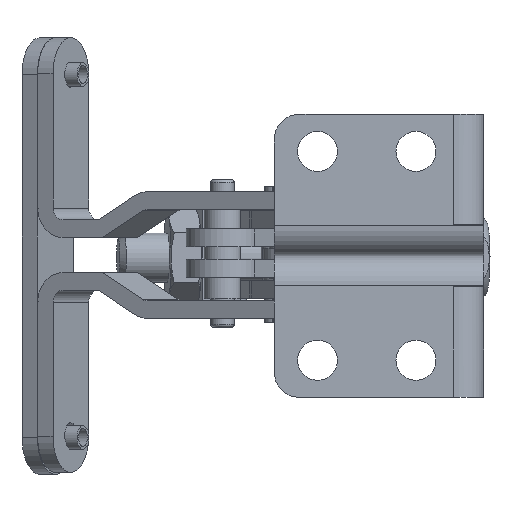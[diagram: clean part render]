
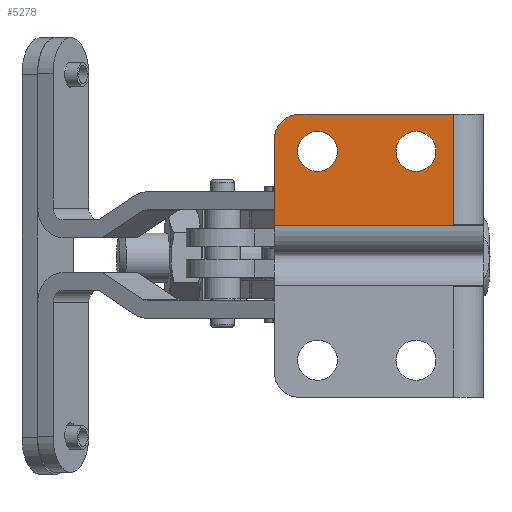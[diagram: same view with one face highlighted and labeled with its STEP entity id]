
A CAD part, front view. The second image highlights one B-rep face of the part: STEP entity #5278.
In plain terms, the highlighted planar face has unit normal (0, -1, 0).
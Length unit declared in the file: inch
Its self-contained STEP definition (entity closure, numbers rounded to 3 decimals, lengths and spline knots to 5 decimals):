
#261=LINE('',#8982,#575);
#270=LINE('',#9007,#584);
#272=LINE('',#9011,#586);
#273=LINE('',#9013,#587);
#274=LINE('',#9014,#588);
#275=LINE('',#9015,#589);
#575=VECTOR('',#7178,0.78653);
#584=VECTOR('',#7203,0.15228);
#586=VECTOR('',#7207,0.4413);
#587=VECTOR('',#7208,1.06381);
#588=VECTOR('',#7209,0.0043);
#589=VECTOR('',#7210,0.562);
#825=PLANE('',#5873);
#1223=FACE_BOUND('',#1940,.T.);
#1224=FACE_BOUND('',#1941,.T.);
#1482=FACE_OUTER_BOUND('',#1939,.T.);
#1939=EDGE_LOOP('',(#4533,#4534,#4535,#4536,#4537,#4538,#4539));
#1940=EDGE_LOOP('',(#4540));
#1941=EDGE_LOOP('',(#4541));
#2304=CIRCLE('',#5856,0.1015);
#2306=CIRCLE('',#5859,0.1015);
#2308=CIRCLE('',#5862,0.125);
#2740=VERTEX_POINT('',#8950);
#2742=VERTEX_POINT('',#8955);
#2745=VERTEX_POINT('',#8961);
#2746=VERTEX_POINT('',#8963);
#2753=VERTEX_POINT('',#8981);
#2760=VERTEX_POINT('',#9004);
#2761=VERTEX_POINT('',#9006);
#2762=VERTEX_POINT('',#9010);
#2763=VERTEX_POINT('',#9012);
#3359=EDGE_CURVE('',#2740,#2740,#2304,.T.);
#3361=EDGE_CURVE('',#2742,#2742,#2306,.T.);
#3364=EDGE_CURVE('',#2745,#2746,#2308,.T.);
#3373=EDGE_CURVE('',#2753,#2746,#261,.T.);
#3387=EDGE_CURVE('',#2761,#2760,#270,.T.);
#3389=EDGE_CURVE('',#2745,#2762,#272,.T.);
#3390=EDGE_CURVE('',#2763,#2762,#273,.T.);
#3391=EDGE_CURVE('',#2761,#2763,#274,.T.);
#3392=EDGE_CURVE('',#2760,#2753,#275,.T.);
#4533=ORIENTED_EDGE('',*,*,#3364,.F.);
#4534=ORIENTED_EDGE('',*,*,#3389,.T.);
#4535=ORIENTED_EDGE('',*,*,#3390,.F.);
#4536=ORIENTED_EDGE('',*,*,#3391,.F.);
#4537=ORIENTED_EDGE('',*,*,#3387,.T.);
#4538=ORIENTED_EDGE('',*,*,#3392,.T.);
#4539=ORIENTED_EDGE('',*,*,#3373,.T.);
#4540=ORIENTED_EDGE('',*,*,#3361,.T.);
#4541=ORIENTED_EDGE('',*,*,#3359,.T.);
#5278=ADVANCED_FACE('',(#1482,#1223,#1224),#825,.T.);
#5856=AXIS2_PLACEMENT_3D('',#8951,#7151,#7152);
#5859=AXIS2_PLACEMENT_3D('',#8956,#7157,#7158);
#5862=AXIS2_PLACEMENT_3D('',#8964,#7164,#7165);
#5873=AXIS2_PLACEMENT_3D('',#9009,#7205,#7206);
#7151=DIRECTION('center_axis',(0.,1.,0.));
#7152=DIRECTION('ref_axis',(-1.,0.,0.));
#7157=DIRECTION('center_axis',(0.,1.,0.));
#7158=DIRECTION('ref_axis',(-1.,0.,0.));
#7164=DIRECTION('center_axis',(0.,1.,0.));
#7165=DIRECTION('ref_axis',(-1.,0.,0.));
#7178=DIRECTION('',(-1.,0.,0.));
#7203=DIRECTION('',(-1.,0.,0.));
#7205=DIRECTION('center_axis',(0.,-1.,0.));
#7206=DIRECTION('ref_axis',(0.,0.,-1.));
#7207=DIRECTION('',(0.,0.,-1.));
#7208=DIRECTION('',(-1.,0.,0.));
#7209=DIRECTION('',(0.,0.,-1.));
#7210=DIRECTION('',(0.,0.,1.));
#8950=CARTESIAN_POINT('',(9.9412,5.78639,0.3017));
#8951=CARTESIAN_POINT('Origin',(9.8397,5.78639,0.3017));
#8955=CARTESIAN_POINT('',(9.4412,5.78639,0.3017));
#8956=CARTESIAN_POINT('Origin',(9.3397,5.78639,0.3017));
#8961=CARTESIAN_POINT('',(9.11998,5.78639,0.3647));
#8963=CARTESIAN_POINT('',(9.24498,5.78639,0.4897));
#8964=CARTESIAN_POINT('Origin',(9.24498,5.78639,0.3647));
#8981=CARTESIAN_POINT('',(10.0315,5.78639,0.4897));
#8982=CARTESIAN_POINT('',(10.0315,5.78639,0.4897));
#9004=CARTESIAN_POINT('',(10.0315,5.78639,-0.0723));
#9006=CARTESIAN_POINT('',(10.18378,5.78639,-0.0723));
#9007=CARTESIAN_POINT('',(10.18378,5.78639,-0.0723));
#9009=CARTESIAN_POINT('Origin',(10.18378,5.78639,0.4897));
#9010=CARTESIAN_POINT('',(9.11998,5.78639,-0.0766));
#9011=CARTESIAN_POINT('',(9.11998,5.78639,0.3647));
#9012=CARTESIAN_POINT('',(10.18378,5.78639,-0.0766));
#9013=CARTESIAN_POINT('',(10.18378,5.78639,-0.0766));
#9014=CARTESIAN_POINT('',(10.18378,5.78639,-0.0723));
#9015=CARTESIAN_POINT('',(10.0315,5.78639,-0.0723));
